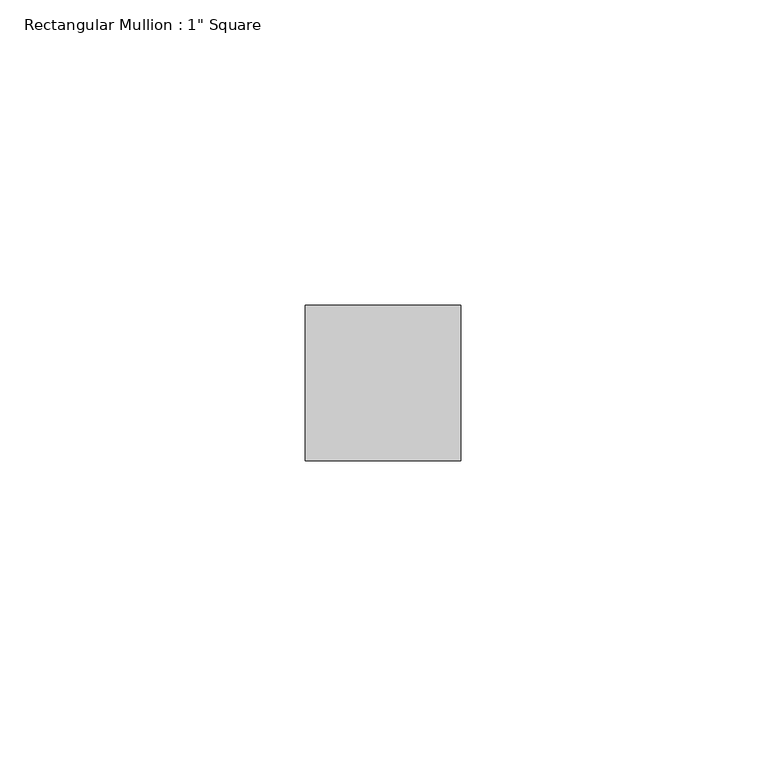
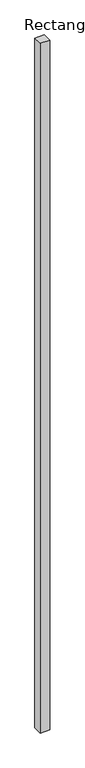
"""IFC4 building model written with IfcOpenShell, lengths in millimetres: member geometry."""

from ifc_helpers import new_model, si_unit, frame, origin, place, context, project, spatial, polyline, outline, extrude, source, transform, mapped, element, save


def member_82e3ca89(model_context):
    return source(origin(), model_context, "Body", "SweptSolid", [
        extrude(outline(polyline([(12.7, 12.7), (12.7, -12.7), (-12.7, -12.7), (-12.7, 12.7), (12.7, 12.7)])), frame((0.0, 0.0, -1974.3670385), z_axis=(0.0, 0.0, 1.0), x_axis=(1.0, 0.0, 0.0)), (0.0, 0.0, 1.0), 1974.3670385),
    ])


if __name__ == "__main__":
    model = new_model("IFC4")
    model_context = context("Model", 3, world=origin())
    ifc_project = project(units=[si_unit("LENGTHUNIT", "METRE", prefix="MILLI")], contexts=[model_context])
    site = spatial("IfcSite", under=ifc_project)
    building = spatial("IfcBuilding", under=site)
    placement = place(None, origin())
    member_shape = member_82e3ca89(model_context)
    element("IfcMember", 1, ObjectType="Rectangular Mullion : 1\" Square", at=placement, inside=building, context=model_context, shape_type="MappedRepresentation", body=[
        mapped(member_shape, transform((0.0, 0.0, 0.0), x_axis=(1.0, 0.0, 0.0), y_axis=(0.0, 1.0, 0.0), z_axis=(0.0, 0.0, 1.0))),
    ])
    save(model, "model.ifc")
